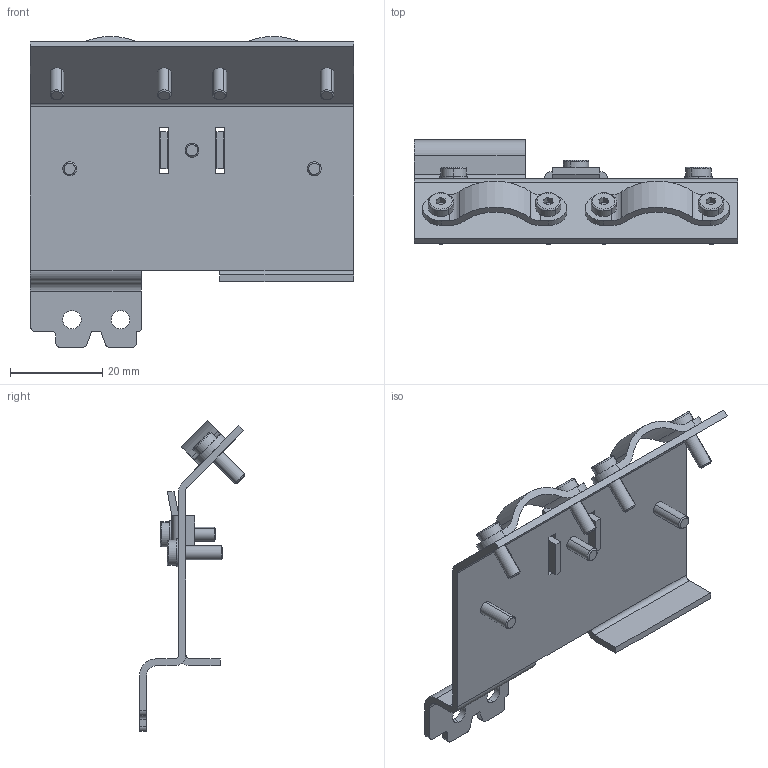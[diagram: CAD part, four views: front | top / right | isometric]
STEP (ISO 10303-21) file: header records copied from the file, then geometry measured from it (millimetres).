
FILE_DESCRIPTION (( 'STEP AP214' ), '1' );
FILE_NAME ('3D 斁麧錪 珅1_2-3.STEP', '2016-05-20T11:55:05', ( '' ), ( '' ), 'SwSTEP 2.0', 'SolidWorks 2014', '' );
FILE_SCHEMA (( 'AUTOMOTIVE_DESIGN' ));
Length unit declared in the file: millimetre
Products named in the file (6): plain washer small grade a_din_Washer DIN 433 - 3.2; socket head thin cap screw_din_DIN 7984 - M3 x 10 --- 8.5N; ÏÊ1_çàæèì 2; ÏÊ1_çàæèì; 珅1-1_2-2; 3D 斁麧錪 珅1_2-3
Assembly tree (14 placements, depth 2):
  3D 斁麧錪 珅1_2-3
    珅1-1_2-2
    ÏÊ1_çàæèì  x2
    ÏÊ1_çàæèì 2
    socket head thin cap screw_din_DIN 7984 - M3 x 10 --- 8.5N  x7
    plain washer small grade a_din_Washer DIN 433 - 3.2  x3
Bounding box: 70 x 22.71 x 67.34 mm (x, y, z)
Volume: 8481 mm3; surface area: 12787.2 mm2
Topology: 14 solids, 14 shells, 330 faces, 803 edges, 493 vertices
Faces by surface type: plane 173, cylinder 101, cone 28, torus 28
Entity records: 4721 total; most frequent: DIRECTION 809, CARTESIAN_POINT 799, ORIENTED_EDGE 738, EDGE_CURVE 369, AXIS2_PLACEMENT_3D 289, VERTEX_POINT 239, LINE 231, VECTOR 231
